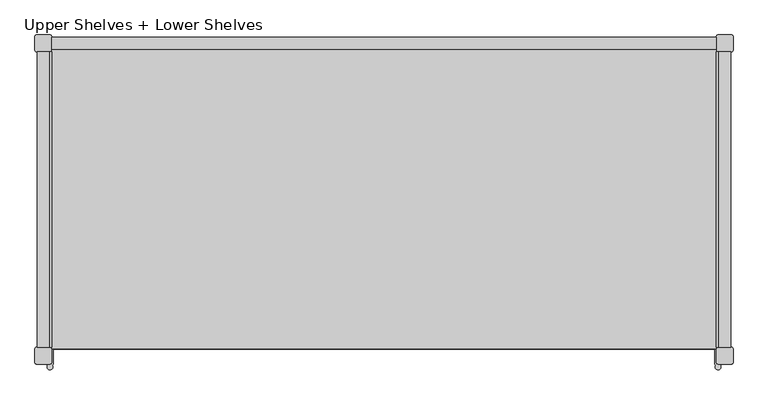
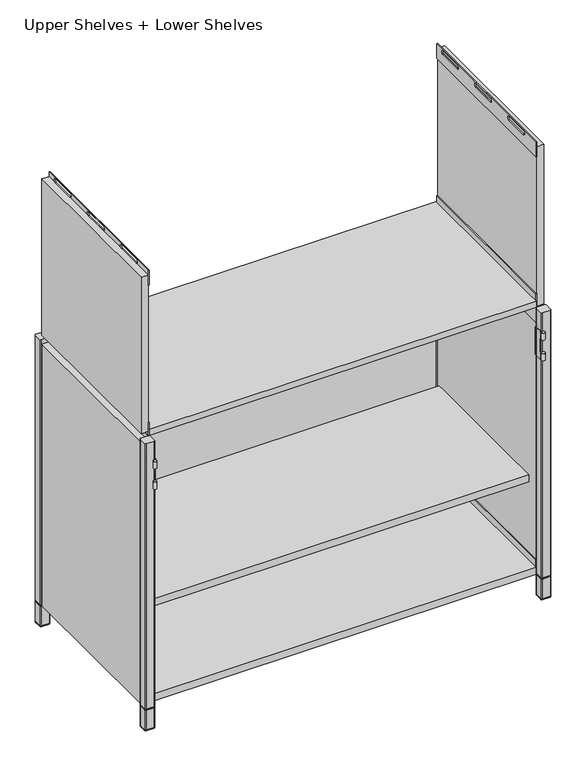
"""IFC4 building model written with IfcOpenShell, lengths in millimetres: furniture geometry, SmithSystem_AM_Storage_Education_Constellate_Stacking_LowMidCluster : Upper Shelves + Lower Shelves."""

from ifc_helpers import new_model, si_unit, point, frame, frame_2d, origin, origin_with_axes, place, context, project, spatial, polyline, circle_curve, trimmed, segment, composite_curve, outline, extrude, source, transform, mapped, element, save
from ifc_brep_helpers import plane_surface, cylinder_surface, revolved_surface, advanced_brep


def upper_shelves_lower_shelves_562fbb97(model_context):
    return source(origin(), model_context, "Body", "SolidModel", [
        extrude(outline(polyline([(-223.52, 753.11), (-223.52, 793.75), (226.06, 793.75), (226.06, 753.11), (-223.52, 753.11)]), holes=[composite_curve([segment(trimmed(circle_curve(frame_2d((-17.78, 786.13)), 5.08), [point((-17.78, 791.21))], [point((-17.78, 781.05))], True, "CARTESIAN"), True, "CONTINUOUS"), segment(polyline([(-17.78, 781.05), (48.26, 781.05)]), True, "CONTINUOUS"), segment(trimmed(circle_curve(frame_2d((48.26, 786.13)), 5.08), [point((48.26, 781.05))], [point((48.26, 791.21))], True, "CARTESIAN"), True, "CONTINUOUS"), segment(polyline([(48.26, 791.21), (-17.78, 791.21)]), True, "CONTINUOUS")], self_intersect=False), composite_curve([segment(trimmed(circle_curve(frame_2d((132.08, 786.13)), 5.08), [point((132.08, 791.21))], [point((132.08, 781.05))], True, "CARTESIAN"), True, "CONTINUOUS"), segment(polyline([(132.08, 781.05), (198.12, 781.05)]), True, "CONTINUOUS"), segment(trimmed(circle_curve(frame_2d((198.12, 786.13)), 5.08), [point((198.12, 781.05))], [point((198.12, 791.21))], True, "CARTESIAN"), True, "CONTINUOUS"), segment(polyline([(198.12, 791.21), (132.08, 791.21)]), True, "CONTINUOUS")], self_intersect=False), composite_curve([segment(trimmed(circle_curve(frame_2d((-167.64, 786.13)), 5.08), [point((-167.64, 791.21))], [point((-167.64, 781.05))], True, "CARTESIAN"), True, "CONTINUOUS"), segment(polyline([(-167.64, 781.05), (-101.6, 781.05)]), True, "CONTINUOUS"), segment(trimmed(circle_curve(frame_2d((-101.6, 786.13)), 5.08), [point((-101.6, 781.05))], [point((-101.6, 791.21))], True, "CARTESIAN"), True, "CONTINUOUS"), segment(polyline([(-101.6, 791.21), (-167.64, 791.21)]), True, "CONTINUOUS")], self_intersect=False)]), frame((-508.0, 0.0, 0.0), z_axis=(1.0, 0.0, 0.0), x_axis=(0.0, 1.0, 0.0)), (0.0, 0.0, 1.0), 2.54),
        extrude(outline(polyline([(-223.52, 1210.31), (-223.52, 1250.95), (226.06, 1250.95), (226.06, 1210.31), (-223.52, 1210.31)]), holes=[composite_curve([segment(trimmed(circle_curve(frame_2d((-17.78, 1243.33)), 5.08), [point((-17.78, 1248.41))], [point((-17.78, 1238.25))], True, "CARTESIAN"), True, "CONTINUOUS"), segment(polyline([(-17.78, 1238.25), (48.26, 1238.25)]), True, "CONTINUOUS"), segment(trimmed(circle_curve(frame_2d((48.26, 1243.33)), 5.08), [point((48.26, 1238.25))], [point((48.26, 1248.41))], True, "CARTESIAN"), True, "CONTINUOUS"), segment(polyline([(48.26, 1248.41), (-17.78, 1248.41)]), True, "CONTINUOUS")], self_intersect=False), composite_curve([segment(trimmed(circle_curve(frame_2d((132.08, 1243.33)), 5.08), [point((132.08, 1248.41))], [point((132.08, 1238.25))], True, "CARTESIAN"), True, "CONTINUOUS"), segment(polyline([(132.08, 1238.25), (198.12, 1238.25)]), True, "CONTINUOUS"), segment(trimmed(circle_curve(frame_2d((198.12, 1243.33)), 5.08), [point((198.12, 1238.25))], [point((198.12, 1248.41))], True, "CARTESIAN"), True, "CONTINUOUS"), segment(polyline([(198.12, 1248.41), (132.08, 1248.41)]), True, "CONTINUOUS")], self_intersect=False), composite_curve([segment(trimmed(circle_curve(frame_2d((-167.64, 1243.33)), 5.08), [point((-167.64, 1248.41))], [point((-167.64, 1238.25))], True, "CARTESIAN"), True, "CONTINUOUS"), segment(polyline([(-167.64, 1238.25), (-101.6, 1238.25)]), True, "CONTINUOUS"), segment(trimmed(circle_curve(frame_2d((-101.6, 1243.33)), 5.08), [point((-101.6, 1238.25))], [point((-101.6, 1248.41))], True, "CARTESIAN"), True, "CONTINUOUS"), segment(polyline([(-101.6, 1248.41), (-167.64, 1248.41)]), True, "CONTINUOUS")], self_intersect=False)]), frame((-508.0, 0.0, 0.0), z_axis=(1.0, 0.0, 0.0), x_axis=(0.0, 1.0, 0.0)), (0.0, 0.0, 1.0), 2.54),
        extrude(outline(polyline([(-223.52, 793.75), (226.06, 793.75), (226.06, 753.11), (-223.52, 753.11), (-223.52, 793.75)]), holes=[composite_curve([segment(trimmed(circle_curve(frame_2d((132.08, 786.13)), 5.08), [point((132.08, 791.21))], [point((132.08, 781.05))], True, "CARTESIAN"), True, "CONTINUOUS"), segment(polyline([(132.08, 781.05), (198.12, 781.05)]), True, "CONTINUOUS"), segment(trimmed(circle_curve(frame_2d((198.12, 786.13)), 5.08), [point((198.12, 781.05))], [point((198.12, 791.21))], True, "CARTESIAN"), True, "CONTINUOUS"), segment(polyline([(198.12, 791.21), (132.08, 791.21)]), True, "CONTINUOUS")], self_intersect=False), composite_curve([segment(trimmed(circle_curve(frame_2d((-17.78, 786.13)), 5.08), [point((-17.78, 791.21))], [point((-17.78, 781.05))], True, "CARTESIAN"), True, "CONTINUOUS"), segment(polyline([(-17.78, 781.05), (48.26, 781.05)]), True, "CONTINUOUS"), segment(trimmed(circle_curve(frame_2d((48.26, 786.13)), 5.08), [point((48.26, 781.05))], [point((48.26, 791.21))], True, "CARTESIAN"), True, "CONTINUOUS"), segment(polyline([(48.26, 791.21), (-17.78, 791.21)]), True, "CONTINUOUS")], self_intersect=False), composite_curve([segment(trimmed(circle_curve(frame_2d((-167.64, 786.13)), 5.08), [point((-167.64, 791.21))], [point((-167.64, 781.05))], True, "CARTESIAN"), True, "CONTINUOUS"), segment(polyline([(-167.64, 781.05), (-101.6, 781.05)]), True, "CONTINUOUS"), segment(trimmed(circle_curve(frame_2d((-101.6, 786.13)), 5.08), [point((-101.6, 781.05))], [point((-101.6, 791.21))], True, "CARTESIAN"), True, "CONTINUOUS"), segment(polyline([(-101.6, 791.21), (-167.64, 791.21)]), True, "CONTINUOUS")], self_intersect=False)]), frame((505.46, 0.0, 0.0), z_axis=(1.0, 0.0, 0.0), x_axis=(0.0, 1.0, 0.0)), (0.0, 0.0, 1.0), 2.54),
        extrude(outline(polyline([(-223.52, 1250.95), (226.06, 1250.95), (226.06, 1210.31), (-223.52, 1210.31), (-223.52, 1250.95)]), holes=[composite_curve([segment(trimmed(circle_curve(frame_2d((132.08, 1243.33)), 5.08), [point((132.08, 1248.41))], [point((132.08, 1238.25))], True, "CARTESIAN"), True, "CONTINUOUS"), segment(polyline([(132.08, 1238.25), (198.12, 1238.25)]), True, "CONTINUOUS"), segment(trimmed(circle_curve(frame_2d((198.12, 1243.33)), 5.08), [point((198.12, 1238.25))], [point((198.12, 1248.41))], True, "CARTESIAN"), True, "CONTINUOUS"), segment(polyline([(198.12, 1248.41), (132.08, 1248.41)]), True, "CONTINUOUS")], self_intersect=False), composite_curve([segment(trimmed(circle_curve(frame_2d((-17.78, 1243.33)), 5.08), [point((-17.78, 1248.41))], [point((-17.78, 1238.25))], True, "CARTESIAN"), True, "CONTINUOUS"), segment(polyline([(-17.78, 1238.25), (48.26, 1238.25)]), True, "CONTINUOUS"), segment(trimmed(circle_curve(frame_2d((48.26, 1243.33)), 5.08), [point((48.26, 1238.25))], [point((48.26, 1248.41))], True, "CARTESIAN"), True, "CONTINUOUS"), segment(polyline([(48.26, 1248.41), (-17.78, 1248.41)]), True, "CONTINUOUS")], self_intersect=False), composite_curve([segment(trimmed(circle_curve(frame_2d((-167.64, 1243.33)), 5.08), [point((-167.64, 1248.41))], [point((-167.64, 1238.25))], True, "CARTESIAN"), True, "CONTINUOUS"), segment(polyline([(-167.64, 1238.25), (-101.6, 1238.25)]), True, "CONTINUOUS"), segment(trimmed(circle_curve(frame_2d((-101.6, 1243.33)), 5.08), [point((-101.6, 1238.25))], [point((-101.6, 1248.41))], True, "CARTESIAN"), True, "CONTINUOUS"), segment(polyline([(-101.6, 1248.41), (-167.64, 1248.41)]), True, "CONTINUOUS")], self_intersect=False)]), frame((505.46, 0.0, 0.0), z_axis=(1.0, 0.0, 0.0), x_axis=(0.0, 1.0, 0.0)), (0.0, 0.0, 1.0), 2.54),
        extrude(outline(polyline([(508.0, 218.44), (508.0, -187.96), (-508.0, -187.96), (-508.0, 218.44), (508.0, 218.44)])), frame((0.0, 0.0, 289.1409), z_axis=(0.0, 0.0, 1.0), x_axis=(1.0, 0.0, 0.0)), (0.0, 0.0, 1.0), 19.05),
        extrude(outline(polyline([(505.46, 228.6), (-505.46, 228.6), (-505.46, 247.65), (505.46, 247.65), (505.46, 228.6)])), frame((0.0, 0.0, 57.15), z_axis=(0.0, 0.0, 1.0), x_axis=(1.0, 0.0, 0.0)), (0.0, 0.0, 1.0), 736.6),
        extrude(outline(polyline([(508.0, -223.52), (505.46, -223.52), (505.46, 226.06), (508.0, 226.06), (508.0, -223.52)])), frame((0.0, 0.0, 57.15), z_axis=(0.0, 0.0, 1.0), x_axis=(1.0, 0.0, 0.0)), (0.0, 0.0, 1.0), 36.83),
        extrude(outline(polyline([(-505.46, -223.52), (-508.0, -223.52), (-508.0, 226.06), (-505.46, 226.06), (-505.46, -223.52)])), frame((0.0, 0.0, 57.15), z_axis=(0.0, 0.0, 1.0), x_axis=(1.0, 0.0, 0.0)), (0.0, 0.0, 1.0), 36.83),
        extrude(outline(polyline([(508.0, -223.52), (505.46, -223.52), (505.46, 226.06), (508.0, 226.06), (508.0, -223.52)])), frame((0.0, 0.0, 793.75), z_axis=(0.0, 0.0, 1.0), x_axis=(1.0, 0.0, 0.0)), (0.0, 0.0, 1.0), 36.83),
        extrude(outline(polyline([(-505.46, -223.52), (-508.0, -223.52), (-508.0, 226.06), (-505.46, 226.06), (-505.46, -223.52)])), frame((0.0, 0.0, 793.75), z_axis=(0.0, 0.0, 1.0), x_axis=(1.0, 0.0, 0.0)), (0.0, 0.0, 1.0), 36.83),
        extrude(outline(polyline([(-508.0, -223.52), (-527.05, -223.52), (-527.05, 226.06), (-508.0, 226.06), (-508.0, -223.52)])), frame((0.0, 0.0, 57.15), z_axis=(0.0, 0.0, 1.0), x_axis=(1.0, 0.0, 0.0)), (0.0, 0.0, 1.0), 723.9),
        extrude(outline(polyline([(527.05, -223.52), (508.0, -223.52), (508.0, 226.06), (527.05, 226.06), (527.05, -223.52)])), frame((0.0, 0.0, 57.15), z_axis=(0.0, 0.0, 1.0), x_axis=(1.0, 0.0, 0.0)), (0.0, 0.0, 1.0), 723.9),
        extrude(outline(polyline([(-508.0, -223.52), (-527.05, -223.52), (-527.05, 226.06), (-508.0, 226.06), (-508.0, -223.52)])), frame((0.0, 0.0, 806.45), z_axis=(0.0, 0.0, 1.0), x_axis=(1.0, 0.0, 0.0)), (0.0, 0.0, 1.0), 431.8),
        extrude(outline(polyline([(527.05, -223.52), (508.0, -223.52), (508.0, 226.06), (527.05, 226.06), (527.05, -223.52)])), frame((0.0, 0.0, 796.29), z_axis=(0.0, 0.0, 1.0), x_axis=(1.0, 0.0, 0.0)), (0.0, 0.0, 1.0), 441.96),
        extrude(outline(polyline([(505.46, 228.6), (505.46, -226.06), (-505.46, -226.06), (-505.46, 228.6), (505.46, 228.6)])), frame((0.0, 0.0, 57.15), z_axis=(0.0, 0.0, 1.0), x_axis=(1.0, 0.0, 0.0)), (0.0, 0.0, 1.0), 19.05),
        extrude(outline(polyline([(505.46, 228.6), (505.46, -226.06), (-505.46, -226.06), (-505.46, 228.6), (505.46, 228.6)])), frame((0.0, 0.0, 796.29), z_axis=(0.0, 0.0, 1.0), x_axis=(1.0, 0.0, 0.0)), (0.0, 0.0, 1.0), 16.51),
        extrude(outline(composite_curve([segment(polyline([(-528.32, -223.52), (-508.0, -223.52)]), True, "CONTINUOUS"), segment(trimmed(circle_curve(frame_2d((-508.0, -226.06)), 2.54), [point((-508.0, -223.52))], [point((-505.46, -226.06))], False, "CARTESIAN"), True, "CONTINUOUS"), segment(polyline([(-505.46, -226.06), (-505.46, -246.38)]), True, "CONTINUOUS"), segment(trimmed(circle_curve(frame_2d((-508.0, -246.38)), 2.54), [point((-505.46, -246.38))], [point((-508.0, -248.92))], False, "CARTESIAN"), True, "CONTINUOUS"), segment(polyline([(-508.0, -248.92), (-528.32, -248.92)]), True, "CONTINUOUS"), segment(trimmed(circle_curve(frame_2d((-528.32, -246.38)), 2.54), [point((-528.32, -248.92))], [point((-530.86, -246.38))], False, "CARTESIAN"), True, "CONTINUOUS"), segment(polyline([(-530.86, -246.38), (-530.86, -226.06)]), True, "CONTINUOUS"), segment(trimmed(circle_curve(frame_2d((-528.32, -226.06)), 2.54), [point((-530.86, -226.06))], [point((-528.32, -223.52))], False, "CARTESIAN"), True, "CONTINUOUS")], self_intersect=False)), frame((0.0, 0.0, 57.15), z_axis=(0.0, 0.0, 1.0), x_axis=(1.0, 0.0, 0.0)), (0.0, 0.0, 1.0), 2.54),
        extrude(outline(composite_curve([segment(polyline([(530.86, 248.92), (530.86, 228.6)]), True, "CONTINUOUS"), segment(trimmed(circle_curve(frame_2d((528.32, 228.6)), 2.54), [point((530.86, 228.6))], [point((528.32, 226.06))], False, "CARTESIAN"), True, "CONTINUOUS"), segment(polyline([(528.32, 226.06), (508.0, 226.06)]), True, "CONTINUOUS"), segment(trimmed(circle_curve(frame_2d((508.0, 228.6)), 2.54), [point((508.0, 226.06))], [point((505.46, 228.6))], False, "CARTESIAN"), True, "CONTINUOUS"), segment(polyline([(505.46, 228.6), (505.46, 248.92)]), True, "CONTINUOUS"), segment(trimmed(circle_curve(frame_2d((508.0, 248.92)), 2.54), [point((505.46, 248.92))], [point((508.0, 251.46))], False, "CARTESIAN"), True, "CONTINUOUS"), segment(polyline([(508.0, 251.46), (528.32, 251.46)]), True, "CONTINUOUS"), segment(trimmed(circle_curve(frame_2d((528.32, 248.92)), 2.54), [point((528.32, 251.46))], [point((530.86, 248.92))], False, "CARTESIAN"), True, "CONTINUOUS")], self_intersect=False)), frame((0.0, 0.0, 57.15), z_axis=(0.0, 0.0, 1.0), x_axis=(1.0, 0.0, 0.0)), (0.0, 0.0, 1.0), 2.54),
        extrude(outline(composite_curve([segment(trimmed(circle_curve(frame_2d((528.32, -226.06)), 2.54), [point((528.32, -223.52))], [point((530.86, -226.06))], False, "CARTESIAN"), True, "CONTINUOUS"), segment(polyline([(530.86, -226.06), (530.86, -246.38)]), True, "CONTINUOUS"), segment(trimmed(circle_curve(frame_2d((528.32, -246.38)), 2.54), [point((530.86, -246.38))], [point((528.32, -248.92))], False, "CARTESIAN"), True, "CONTINUOUS"), segment(polyline([(528.32, -248.92), (508.0, -248.92)]), True, "CONTINUOUS"), segment(trimmed(circle_curve(frame_2d((508.0, -246.38)), 2.54), [point((508.0, -248.92))], [point((505.46, -246.38))], False, "CARTESIAN"), True, "CONTINUOUS"), segment(polyline([(505.46, -246.38), (505.46, -226.06)]), True, "CONTINUOUS"), segment(trimmed(circle_curve(frame_2d((508.0, -226.06)), 2.54), [point((505.46, -226.06))], [point((508.0, -223.52))], False, "CARTESIAN"), True, "CONTINUOUS"), segment(polyline([(508.0, -223.52), (528.32, -223.52)]), True, "CONTINUOUS")], self_intersect=False)), frame((0.0, 0.0, 57.15), z_axis=(0.0, 0.0, 1.0), x_axis=(1.0, 0.0, 0.0)), (0.0, 0.0, 1.0), 2.54),
        extrude(outline(composite_curve([segment(trimmed(circle_curve(frame_2d((-528.32, 248.92)), 2.54), [point((-530.86, 248.92))], [point((-528.32, 251.46))], False, "CARTESIAN"), True, "CONTINUOUS"), segment(polyline([(-528.32, 251.46), (-508.0, 251.46)]), True, "CONTINUOUS"), segment(trimmed(circle_curve(frame_2d((-508.0, 248.92)), 2.54), [point((-508.0, 251.46))], [point((-505.46, 248.92))], False, "CARTESIAN"), True, "CONTINUOUS"), segment(polyline([(-505.46, 248.92), (-505.46, 228.6)]), True, "CONTINUOUS"), segment(trimmed(circle_curve(frame_2d((-508.0, 228.6)), 2.54), [point((-505.46, 228.6))], [point((-508.0, 226.06))], False, "CARTESIAN"), True, "CONTINUOUS"), segment(polyline([(-508.0, 226.06), (-528.32, 226.06)]), True, "CONTINUOUS"), segment(trimmed(circle_curve(frame_2d((-528.32, 228.6)), 2.54), [point((-528.32, 226.06))], [point((-530.86, 228.6))], False, "CARTESIAN"), True, "CONTINUOUS"), segment(polyline([(-530.86, 228.6), (-530.86, 248.92)]), True, "CONTINUOUS")], self_intersect=False)), frame((0.0, 0.0, 57.15), z_axis=(0.0, 0.0, 1.0), x_axis=(1.0, 0.0, 0.0)), (0.0, 0.0, 1.0), 2.54),
        extrude(outline(composite_curve([segment(polyline([(-528.32, -223.52), (-508.0, -223.52)]), True, "CONTINUOUS"), segment(trimmed(circle_curve(frame_2d((-508.0, -226.06)), 2.54), [point((-508.0, -223.52))], [point((-505.46, -226.06))], False, "CARTESIAN"), True, "CONTINUOUS"), segment(polyline([(-505.46, -226.06), (-505.46, -246.38)]), True, "CONTINUOUS"), segment(trimmed(circle_curve(frame_2d((-508.0, -246.38)), 2.54), [point((-505.46, -246.38))], [point((-508.0, -248.92))], False, "CARTESIAN"), True, "CONTINUOUS"), segment(polyline([(-508.0, -248.92), (-528.32, -248.92)]), True, "CONTINUOUS"), segment(trimmed(circle_curve(frame_2d((-528.32, -246.38)), 2.54), [point((-528.32, -248.92))], [point((-530.86, -246.38))], False, "CARTESIAN"), True, "CONTINUOUS"), segment(polyline([(-530.86, -246.38), (-530.86, -226.06)]), True, "CONTINUOUS"), segment(trimmed(circle_curve(frame_2d((-528.32, -226.06)), 2.54), [point((-530.86, -226.06))], [point((-528.32, -223.52))], False, "CARTESIAN"), True, "CONTINUOUS")], self_intersect=False)), frame((0.0, 0.0, 59.69), z_axis=(0.0, 0.0, 1.0), x_axis=(1.0, 0.0, 0.0)), (0.0, 0.0, 1.0), 734.06),
        extrude(outline(composite_curve([segment(polyline([(530.86, 248.92), (530.86, 228.6)]), True, "CONTINUOUS"), segment(trimmed(circle_curve(frame_2d((528.32, 228.6)), 2.54), [point((530.86, 228.6))], [point((528.32, 226.06))], False, "CARTESIAN"), True, "CONTINUOUS"), segment(polyline([(528.32, 226.06), (508.0, 226.06)]), True, "CONTINUOUS"), segment(trimmed(circle_curve(frame_2d((508.0, 228.6)), 2.54), [point((508.0, 226.06))], [point((505.46, 228.6))], False, "CARTESIAN"), True, "CONTINUOUS"), segment(polyline([(505.46, 228.6), (505.46, 248.92)]), True, "CONTINUOUS"), segment(trimmed(circle_curve(frame_2d((508.0, 248.92)), 2.54), [point((505.46, 248.92))], [point((508.0, 251.46))], False, "CARTESIAN"), True, "CONTINUOUS"), segment(polyline([(508.0, 251.46), (528.32, 251.46)]), True, "CONTINUOUS"), segment(trimmed(circle_curve(frame_2d((528.32, 248.92)), 2.54), [point((528.32, 251.46))], [point((530.86, 248.92))], False, "CARTESIAN"), True, "CONTINUOUS")], self_intersect=False)), frame((0.0, 0.0, 59.69), z_axis=(0.0, 0.0, 1.0), x_axis=(1.0, 0.0, 0.0)), (0.0, 0.0, 1.0), 734.06),
        extrude(outline(composite_curve([segment(trimmed(circle_curve(frame_2d((528.32, -226.06)), 2.54), [point((528.32, -223.52))], [point((530.86, -226.06))], False, "CARTESIAN"), True, "CONTINUOUS"), segment(polyline([(530.86, -226.06), (530.86, -246.38)]), True, "CONTINUOUS"), segment(trimmed(circle_curve(frame_2d((528.32, -246.38)), 2.54), [point((530.86, -246.38))], [point((528.32, -248.92))], False, "CARTESIAN"), True, "CONTINUOUS"), segment(polyline([(528.32, -248.92), (508.0, -248.92)]), True, "CONTINUOUS"), segment(trimmed(circle_curve(frame_2d((508.0, -246.38)), 2.54), [point((508.0, -248.92))], [point((505.46, -246.38))], False, "CARTESIAN"), True, "CONTINUOUS"), segment(polyline([(505.46, -246.38), (505.46, -226.06)]), True, "CONTINUOUS"), segment(trimmed(circle_curve(frame_2d((508.0, -226.06)), 2.54), [point((505.46, -226.06))], [point((508.0, -223.52))], False, "CARTESIAN"), True, "CONTINUOUS"), segment(polyline([(508.0, -223.52), (528.32, -223.52)]), True, "CONTINUOUS")], self_intersect=False)), frame((0.0, 0.0, 59.69), z_axis=(0.0, 0.0, 1.0), x_axis=(1.0, 0.0, 0.0)), (0.0, 0.0, 1.0), 734.06),
        extrude(outline(composite_curve([segment(trimmed(circle_curve(frame_2d((-528.32, 248.92)), 2.54), [point((-530.86, 248.92))], [point((-528.32, 251.46))], False, "CARTESIAN"), True, "CONTINUOUS"), segment(polyline([(-528.32, 251.46), (-508.0, 251.46)]), True, "CONTINUOUS"), segment(trimmed(circle_curve(frame_2d((-508.0, 248.92)), 2.54), [point((-508.0, 251.46))], [point((-505.46, 248.92))], False, "CARTESIAN"), True, "CONTINUOUS"), segment(polyline([(-505.46, 248.92), (-505.46, 228.6)]), True, "CONTINUOUS"), segment(trimmed(circle_curve(frame_2d((-508.0, 228.6)), 2.54), [point((-505.46, 228.6))], [point((-508.0, 226.06))], False, "CARTESIAN"), True, "CONTINUOUS"), segment(polyline([(-508.0, 226.06), (-528.32, 226.06)]), True, "CONTINUOUS"), segment(trimmed(circle_curve(frame_2d((-528.32, 228.6)), 2.54), [point((-528.32, 226.06))], [point((-530.86, 228.6))], False, "CARTESIAN"), True, "CONTINUOUS"), segment(polyline([(-530.86, 228.6), (-530.86, 248.92)]), True, "CONTINUOUS")], self_intersect=False)), frame((0.0, 0.0, 59.69), z_axis=(0.0, 0.0, 1.0), x_axis=(1.0, 0.0, 0.0)), (0.0, 0.0, 1.0), 734.06),
        extrude(outline(composite_curve([segment(polyline([(-528.32, -223.52), (-508.0, -223.52)]), True, "CONTINUOUS"), segment(trimmed(circle_curve(frame_2d((-508.0, -226.06)), 2.54), [point((-508.0, -223.52))], [point((-505.46, -226.06))], False, "CARTESIAN"), True, "CONTINUOUS"), segment(polyline([(-505.46, -226.06), (-505.46, -246.38)]), True, "CONTINUOUS"), segment(trimmed(circle_curve(frame_2d((-508.0, -246.38)), 2.54), [point((-505.46, -246.38))], [point((-508.0, -248.92))], False, "CARTESIAN"), True, "CONTINUOUS"), segment(polyline([(-508.0, -248.92), (-528.32, -248.92)]), True, "CONTINUOUS"), segment(trimmed(circle_curve(frame_2d((-528.32, -246.38)), 2.54), [point((-528.32, -248.92))], [point((-530.86, -246.38))], False, "CARTESIAN"), True, "CONTINUOUS"), segment(polyline([(-530.86, -246.38), (-530.86, -226.06)]), True, "CONTINUOUS"), segment(trimmed(circle_curve(frame_2d((-528.32, -226.06)), 2.54), [point((-530.86, -226.06))], [point((-528.32, -223.52))], False, "CARTESIAN"), True, "CONTINUOUS")], self_intersect=False)), frame((0.0, 0.0, 2.54), z_axis=(0.0, 0.0, 1.0), x_axis=(1.0, 0.0, 0.0)), (0.0, 0.0, 1.0), 54.61),
        extrude(outline(composite_curve([segment(polyline([(530.86, 248.92), (530.86, 228.6)]), True, "CONTINUOUS"), segment(trimmed(circle_curve(frame_2d((528.32, 228.6)), 2.54), [point((530.86, 228.6))], [point((528.32, 226.06))], False, "CARTESIAN"), True, "CONTINUOUS"), segment(polyline([(528.32, 226.06), (508.0, 226.06)]), True, "CONTINUOUS"), segment(trimmed(circle_curve(frame_2d((508.0, 228.6)), 2.54), [point((508.0, 226.06))], [point((505.46, 228.6))], False, "CARTESIAN"), True, "CONTINUOUS"), segment(polyline([(505.46, 228.6), (505.46, 248.92)]), True, "CONTINUOUS"), segment(trimmed(circle_curve(frame_2d((508.0, 248.92)), 2.54), [point((505.46, 248.92))], [point((508.0, 251.46))], False, "CARTESIAN"), True, "CONTINUOUS"), segment(polyline([(508.0, 251.46), (528.32, 251.46)]), True, "CONTINUOUS"), segment(trimmed(circle_curve(frame_2d((528.32, 248.92)), 2.54), [point((528.32, 251.46))], [point((530.86, 248.92))], False, "CARTESIAN"), True, "CONTINUOUS")], self_intersect=False)), frame((0.0, 0.0, 2.54), z_axis=(0.0, 0.0, 1.0), x_axis=(1.0, 0.0, 0.0)), (0.0, 0.0, 1.0), 54.61),
        extrude(outline(composite_curve([segment(trimmed(circle_curve(frame_2d((528.32, -226.06)), 2.54), [point((528.32, -223.52))], [point((530.86, -226.06))], False, "CARTESIAN"), True, "CONTINUOUS"), segment(polyline([(530.86, -226.06), (530.86, -246.38)]), True, "CONTINUOUS"), segment(trimmed(circle_curve(frame_2d((528.32, -246.38)), 2.54), [point((530.86, -246.38))], [point((528.32, -248.92))], False, "CARTESIAN"), True, "CONTINUOUS"), segment(polyline([(528.32, -248.92), (508.0, -248.92)]), True, "CONTINUOUS"), segment(trimmed(circle_curve(frame_2d((508.0, -246.38)), 2.54), [point((508.0, -248.92))], [point((505.46, -246.38))], False, "CARTESIAN"), True, "CONTINUOUS"), segment(polyline([(505.46, -246.38), (505.46, -226.06)]), True, "CONTINUOUS"), segment(trimmed(circle_curve(frame_2d((508.0, -226.06)), 2.54), [point((505.46, -226.06))], [point((508.0, -223.52))], False, "CARTESIAN"), True, "CONTINUOUS"), segment(polyline([(508.0, -223.52), (528.32, -223.52)]), True, "CONTINUOUS")], self_intersect=False)), frame((0.0, 0.0, 2.54), z_axis=(0.0, 0.0, 1.0), x_axis=(1.0, 0.0, 0.0)), (0.0, 0.0, 1.0), 54.61),
        extrude(outline(composite_curve([segment(trimmed(circle_curve(frame_2d((-528.32, 248.92)), 2.54), [point((-530.86, 248.92))], [point((-528.32, 251.46))], False, "CARTESIAN"), True, "CONTINUOUS"), segment(polyline([(-528.32, 251.46), (-508.0, 251.46)]), True, "CONTINUOUS"), segment(trimmed(circle_curve(frame_2d((-508.0, 248.92)), 2.54), [point((-508.0, 251.46))], [point((-505.46, 248.92))], False, "CARTESIAN"), True, "CONTINUOUS"), segment(polyline([(-505.46, 248.92), (-505.46, 228.6)]), True, "CONTINUOUS"), segment(trimmed(circle_curve(frame_2d((-508.0, 228.6)), 2.54), [point((-505.46, 228.6))], [point((-508.0, 226.06))], False, "CARTESIAN"), True, "CONTINUOUS"), segment(polyline([(-508.0, 226.06), (-528.32, 226.06)]), True, "CONTINUOUS"), segment(trimmed(circle_curve(frame_2d((-528.32, 228.6)), 2.54), [point((-528.32, 226.06))], [point((-530.86, 228.6))], False, "CARTESIAN"), True, "CONTINUOUS"), segment(polyline([(-530.86, 228.6), (-530.86, 248.92)]), True, "CONTINUOUS")], self_intersect=False)), frame((0.0, 0.0, 2.54), z_axis=(0.0, 0.0, 1.0), x_axis=(1.0, 0.0, 0.0)), (0.0, 0.0, 1.0), 54.61),
        extrude(outline(composite_curve([segment(trimmed(circle_curve(frame_2d((-508.0, -226.06)), 2.54), [point((-508.0, -223.52))], [point((-505.46, -226.06))], False, "CARTESIAN"), True, "CONTINUOUS"), segment(polyline([(-505.46, -226.06), (-505.46, -246.38)]), True, "CONTINUOUS"), segment(trimmed(circle_curve(frame_2d((-508.0, -246.38)), 2.54), [point((-505.46, -246.38))], [point((-508.0, -248.92))], False, "CARTESIAN"), True, "CONTINUOUS"), segment(polyline([(-508.0, -248.92), (-528.32, -248.92)]), True, "CONTINUOUS"), segment(trimmed(circle_curve(frame_2d((-528.32, -246.38)), 2.54), [point((-528.32, -248.92))], [point((-530.86, -246.38))], False, "CARTESIAN"), True, "CONTINUOUS"), segment(polyline([(-530.86, -246.38), (-530.86, -226.06)]), True, "CONTINUOUS"), segment(trimmed(circle_curve(frame_2d((-528.32, -226.06)), 2.54), [point((-530.86, -226.06))], [point((-528.32, -223.52))], False, "CARTESIAN"), True, "CONTINUOUS"), segment(polyline([(-528.32, -223.52), (-508.0, -223.52)]), True, "CONTINUOUS")], self_intersect=False)), origin_with_axes(), (0.0, 0.0, 1.0), 2.54),
        extrude(outline(composite_curve([segment(polyline([(508.0, -223.52), (528.32, -223.52)]), True, "CONTINUOUS"), segment(trimmed(circle_curve(frame_2d((528.32, -226.06)), 2.54), [point((528.32, -223.52))], [point((530.86, -226.06))], False, "CARTESIAN"), True, "CONTINUOUS"), segment(polyline([(530.86, -226.06), (530.86, -246.38)]), True, "CONTINUOUS"), segment(trimmed(circle_curve(frame_2d((528.32, -246.38)), 2.54), [point((530.86, -246.38))], [point((528.32, -248.92))], False, "CARTESIAN"), True, "CONTINUOUS"), segment(polyline([(528.32, -248.92), (508.0, -248.92)]), True, "CONTINUOUS"), segment(trimmed(circle_curve(frame_2d((508.0, -246.38)), 2.54), [point((508.0, -248.92))], [point((505.46, -246.38))], False, "CARTESIAN"), True, "CONTINUOUS"), segment(polyline([(505.46, -246.38), (505.46, -226.06)]), True, "CONTINUOUS"), segment(trimmed(circle_curve(frame_2d((508.0, -226.06)), 2.54), [point((505.46, -226.06))], [point((508.0, -223.52))], False, "CARTESIAN"), True, "CONTINUOUS")], self_intersect=False)), origin_with_axes(), (0.0, 0.0, 1.0), 2.54),
        extrude(outline(composite_curve([segment(trimmed(circle_curve(frame_2d((-508.0, 248.92)), 2.54), [point((-508.0, 251.46))], [point((-505.46, 248.92))], False, "CARTESIAN"), True, "CONTINUOUS"), segment(polyline([(-505.46, 248.92), (-505.46, 228.6)]), True, "CONTINUOUS"), segment(trimmed(circle_curve(frame_2d((-508.0, 228.6)), 2.54), [point((-505.46, 228.6))], [point((-508.0, 226.06))], False, "CARTESIAN"), True, "CONTINUOUS"), segment(polyline([(-508.0, 226.06), (-528.32, 226.06)]), True, "CONTINUOUS"), segment(trimmed(circle_curve(frame_2d((-528.32, 228.6)), 2.54), [point((-528.32, 226.06))], [point((-530.86, 228.6))], False, "CARTESIAN"), True, "CONTINUOUS"), segment(polyline([(-530.86, 228.6), (-530.86, 248.92)]), True, "CONTINUOUS"), segment(trimmed(circle_curve(frame_2d((-528.32, 248.92)), 2.54), [point((-530.86, 248.92))], [point((-528.32, 251.46))], False, "CARTESIAN"), True, "CONTINUOUS"), segment(polyline([(-528.32, 251.46), (-508.0, 251.46)]), True, "CONTINUOUS")], self_intersect=False)), origin_with_axes(), (0.0, 0.0, 1.0), 2.54),
        extrude(outline(composite_curve([segment(polyline([(508.0, 251.46), (528.32, 251.46)]), True, "CONTINUOUS"), segment(trimmed(circle_curve(frame_2d((528.32, 248.92)), 2.54), [point((528.32, 251.46))], [point((530.86, 248.92))], False, "CARTESIAN"), True, "CONTINUOUS"), segment(polyline([(530.86, 248.92), (530.86, 228.6)]), True, "CONTINUOUS"), segment(trimmed(circle_curve(frame_2d((528.32, 228.6)), 2.54), [point((530.86, 228.6))], [point((528.32, 226.06))], False, "CARTESIAN"), True, "CONTINUOUS"), segment(polyline([(528.32, 226.06), (508.0, 226.06)]), True, "CONTINUOUS"), segment(trimmed(circle_curve(frame_2d((508.0, 228.6)), 2.54), [point((508.0, 226.06))], [point((505.46, 228.6))], False, "CARTESIAN"), True, "CONTINUOUS"), segment(polyline([(505.46, 228.6), (505.46, 248.92)]), True, "CONTINUOUS"), segment(trimmed(circle_curve(frame_2d((508.0, 248.92)), 2.54), [point((505.46, 248.92))], [point((508.0, 251.46))], False, "CARTESIAN"), True, "CONTINUOUS")], self_intersect=False)), origin_with_axes(), (0.0, 0.0, 1.0), 2.54),
        advanced_brep(
        [(-505.46, -226.06, 666.75), (-502.92, -226.06, 666.75), (-502.92, -247.65, 666.75), (-504.444, -250.698, 666.75), (-508.0, -248.92, 666.75), (-506.73, -248.92, 666.75), (-505.46, -247.65, 666.75), (-502.92, -226.06, 742.95), (-505.46, -226.06, 742.95), (-505.46, -247.65, 742.95), (-506.73, -248.92, 742.95), (-508.0, -248.92, 742.95), (-504.444, -250.698, 742.95), (-502.92, -247.65, 742.95), (-502.92, -247.65, 723.9), (-502.92, -245.11, 723.9), (-502.92, -245.11, 685.8), (-502.92, -247.65, 685.8), (-505.46, -247.65, 685.8), (-505.46, -245.11, 685.8), (-505.46, -245.11, 723.9), (-505.46, -247.65, 723.9), (-504.444, -250.698, 723.9), (-508.0, -248.92, 723.9), (-506.73, -248.92, 723.9), (-504.444, -250.698, 685.8), (-506.73, -248.92, 685.8), (-508.0, -248.92, 685.8)],
        [
            (0, 1),
            (1, 2),
            (2, 3, circle_curve(frame((-506.73, -247.65, 666.75), z_axis=(0.0, 0.0, -1.0), x_axis=(0.0, 1.0, 0.0)), 3.81)),
            (3, 4, circle_curve(frame((-508.0, -253.365, 666.75), z_axis=(0.0, 0.0, -1.0), x_axis=(0.0, 1.0, 0.0)), 4.445)),
            (4, 5),
            (5, 6, circle_curve(frame((-506.73, -247.65, 666.75), z_axis=(0.0, 0.0, 1.0), x_axis=(0.0, 1.0, 0.0)), 1.27)),
            (6, 0),
            (7, 8),
            (8, 9),
            (9, 10, circle_curve(frame((-506.73, -247.65, 742.95), z_axis=(0.0, 0.0, -1.0), x_axis=(0.0, 1.0, 0.0)), 1.27)),
            (10, 11),
            (11, 12, circle_curve(frame((-508.0, -253.365, 742.95), z_axis=(0.0, 0.0, 1.0), x_axis=(0.0, 1.0, 0.0)), 4.445)),
            (12, 13, circle_curve(frame((-506.73, -247.65, 742.95), z_axis=(0.0, 0.0, 1.0), x_axis=(0.0, 1.0, 0.0)), 3.81)),
            (13, 7),
            (1, 7),
            (13, 14),
            (14, 15),
            (15, 16),
            (16, 17),
            (17, 2),
            (0, 8),
            (6, 18),
            (18, 19),
            (19, 20),
            (20, 21),
            (21, 9),
            (15, 20),
            (19, 16),
            (22, 23, circle_curve(frame((-508.0, -253.365, 723.9), z_axis=(0.0, 0.0, -1.0), x_axis=(0.0, 1.0, 0.0)), 4.445)),
            (23, 24),
            (24, 21, circle_curve(frame((-506.73, -247.65, 723.9), z_axis=(0.0, 0.0, 1.0), x_axis=(0.0, 1.0, 0.0)), 1.27)),
            (14, 22, circle_curve(frame((-506.73, -247.65, 723.9), z_axis=(0.0, 0.0, -1.0), x_axis=(0.0, 1.0, 0.0)), 3.81)),
            (12, 22),
            (24, 10),
            (23, 11),
            (25, 17, circle_curve(frame((-506.73, -247.65, 685.8), z_axis=(0.0, 0.0, 1.0), x_axis=(0.0, 1.0, 0.0)), 3.81)),
            (18, 26, circle_curve(frame((-506.73, -247.65, 685.8), z_axis=(0.0, 0.0, -1.0), x_axis=(0.0, 1.0, 0.0)), 1.27)),
            (26, 27),
            (27, 25, circle_curve(frame((-508.0, -253.365, 685.8), z_axis=(0.0, 0.0, 1.0), x_axis=(0.0, 1.0, 0.0)), 4.445)),
            (25, 3),
            (5, 26),
            (4, 27),
        ],
        [
            plane_surface(frame((-541.02, -245.11, 666.75), z_axis=(0.0, 0.0, -1.0), x_axis=(-1.0, 0.0, 0.0))),
            plane_surface(frame((-541.02, -245.11, 742.95), z_axis=(0.0, 0.0, 1.0), x_axis=(1.0, 0.0, 0.0))),
            plane_surface(frame((-502.92, -226.06, 666.75), z_axis=(1.0, 0.0, 0.0), x_axis=(0.0, 0.0, 1.0))),
            plane_surface(frame((-505.46, -226.06, 666.75), z_axis=(0.0, 1.0, 0.0), x_axis=(0.0, 0.0, 1.0))),
            plane_surface(frame((-505.46, -245.11, 666.75), z_axis=(-1.0, 0.0, 0.0), x_axis=(0.0, 0.0, 1.0))),
            plane_surface(frame((-502.92, -245.11, 666.75), z_axis=(0.0, -1.0, 0.0), x_axis=(0.0, 0.0, 1.0))),
            plane_surface(frame((-508.0, -248.92, 723.9), z_axis=(0.0, 0.0, -1.0), x_axis=(1.0, 0.0, 0.0))),
            cylinder_surface(frame((-506.73, -247.65, 742.95), z_axis=(0.0, 0.0, -1.0), x_axis=(0.0, 1.0, 0.0)), 3.81),
            revolved_surface(polyline([(-506.73, -246.38, 742.95), (-506.73, -246.38, 723.9)]), (-506.73, -247.65, 742.95), (0.0, 0.0, 1.0)),
            plane_surface(frame((-508.0, -248.92, 723.9), z_axis=(0.0, 1.0, 0.0), x_axis=(0.0, 0.0, 1.0))),
            cylinder_surface(frame((-508.0, -253.365, 742.95), z_axis=(0.0, 0.0, -1.0), x_axis=(0.0, 1.0, 0.0)), 4.445),
            plane_surface(frame((-508.0, -248.92, 685.8), z_axis=(0.0, 0.0, 1.0), x_axis=(-1.0, 0.0, 0.0))),
            cylinder_surface(frame((-506.73, -247.65, 685.8), z_axis=(0.0, 0.0, -1.0), x_axis=(0.0, 1.0, 0.0)), 3.81),
            revolved_surface(polyline([(-506.73, -246.38, 685.8), (-506.73, -246.38, 666.75)]), (-506.73, -247.65, 685.8), (0.0, 0.0, 1.0)),
            plane_surface(frame((-508.0, -248.92, 666.75), z_axis=(0.0, 1.0, 0.0), x_axis=(0.0, 0.0, 1.0))),
            cylinder_surface(frame((-508.0, -253.365, 685.8), z_axis=(0.0, 0.0, -1.0), x_axis=(0.0, 1.0, 0.0)), 4.445),
        ],
        [
            (0, [[1, 2, 3, 4, 5, 6, 7]]),
            (1, [[8, 9, 10, 11, 12, 13, 14]]),
            (2, [[-2, 15, -14, 16, 17, 18, 19, 20]]),
            (3, [[-1, 21, -8, -15]]),
            (4, [[-21, -7, 22, 23, 24, 25, 26, -9]]),
            (5, [[27, -24, 28, -18]]),
            (6, [[29, 30, 31, -25, -27, -17, 32]]),
            (7, [[-32, -16, -13, 33]]),
            (8, [[-31, 34, -10, -26]]),
            (9, [[-30, 35, -11, -34]]),
            (10, [[-29, -33, -12, -35]]),
            (11, [[36, -19, -28, -23, 37, 38, 39]]),
            (12, [[-36, 40, -3, -20]]),
            (13, [[-37, -22, -6, 41]]),
            (14, [[-38, -41, -5, 42]]),
            (15, [[-39, -42, -4, -40]]),
        ],
    ),
        advanced_brep(
        [(502.92, -226.06, 666.75), (505.46, -226.06, 666.75), (505.46, -247.65, 666.75), (506.73, -248.92, 666.75), (508.0, -248.92, 666.75), (504.444, -250.698, 666.75), (502.92, -247.65, 666.75), (505.46, -226.06, 742.95), (502.92, -226.06, 742.95), (502.92, -247.65, 742.95), (504.444, -250.698, 742.95), (508.0, -248.92, 742.95), (506.73, -248.92, 742.95), (505.46, -247.65, 742.95), (505.46, -245.11, 723.9), (502.92, -245.11, 723.9), (502.92, -245.11, 685.8), (505.46, -245.11, 685.8), (505.46, -247.65, 723.9), (505.46, -247.65, 685.8), (502.92, -247.65, 685.8), (502.92, -247.65, 723.9), (504.444, -250.698, 723.9), (506.73, -248.92, 723.9), (508.0, -248.92, 723.9), (504.444, -250.698, 685.8), (508.0, -248.92, 685.8), (506.73, -248.92, 685.8)],
        [
            (0, 1),
            (1, 2),
            (2, 3, circle_curve(frame((506.73, -247.65, 666.75), z_axis=(0.0, 0.0, 1.0), x_axis=(0.0, 1.0, 0.0)), 1.27)),
            (3, 4),
            (4, 5, circle_curve(frame((508.0, -253.365, 666.75), z_axis=(0.0, 0.0, -1.0), x_axis=(0.0, 1.0, 0.0)), 4.445)),
            (5, 6, circle_curve(frame((506.73, -247.65, 666.75), z_axis=(0.0, 0.0, -1.0), x_axis=(0.0, 1.0, 0.0)), 3.81)),
            (6, 0),
            (7, 8),
            (8, 9),
            (9, 10, circle_curve(frame((506.73, -247.65, 742.95), z_axis=(0.0, 0.0, 1.0), x_axis=(0.0, 1.0, 0.0)), 3.81)),
            (10, 11, circle_curve(frame((508.0, -253.365, 742.95), z_axis=(0.0, 0.0, 1.0), x_axis=(0.0, 1.0, 0.0)), 4.445)),
            (11, 12),
            (12, 13, circle_curve(frame((506.73, -247.65, 742.95), z_axis=(0.0, 0.0, -1.0), x_axis=(0.0, 1.0, 0.0)), 1.27)),
            (13, 7),
            (14, 15),
            (15, 16),
            (16, 17),
            (17, 14),
            (1, 7),
            (13, 18),
            (18, 14),
            (17, 19),
            (19, 2),
            (0, 8),
            (6, 20),
            (20, 16),
            (15, 21),
            (21, 9),
            (22, 21, circle_curve(frame((506.73, -247.65, 723.9), z_axis=(0.0, 0.0, -1.0), x_axis=(0.0, 1.0, 0.0)), 3.81)),
            (18, 23, circle_curve(frame((506.73, -247.65, 723.9), z_axis=(0.0, 0.0, 1.0), x_axis=(0.0, 1.0, 0.0)), 1.27)),
            (23, 24),
            (24, 22, circle_curve(frame((508.0, -253.365, 723.9), z_axis=(0.0, 0.0, -1.0), x_axis=(0.0, 1.0, 0.0)), 4.445)),
            (24, 11),
            (10, 22),
            (23, 12),
            (25, 26, circle_curve(frame((508.0, -253.365, 685.8), z_axis=(0.0, 0.0, 1.0), x_axis=(0.0, 1.0, 0.0)), 4.445)),
            (26, 27),
            (27, 19, circle_curve(frame((506.73, -247.65, 685.8), z_axis=(0.0, 0.0, -1.0), x_axis=(0.0, 1.0, 0.0)), 1.27)),
            (20, 25, circle_curve(frame((506.73, -247.65, 685.8), z_axis=(0.0, 0.0, 1.0), x_axis=(0.0, 1.0, 0.0)), 3.81)),
            (25, 5),
            (4, 26),
            (3, 27),
        ],
        [
            plane_surface(frame((-541.02, -245.11, 666.75), z_axis=(0.0, 0.0, -1.0), x_axis=(-1.0, 0.0, 0.0))),
            plane_surface(frame((-541.02, -245.11, 742.95), z_axis=(0.0, 0.0, 1.0), x_axis=(1.0, 0.0, 0.0))),
            plane_surface(frame((505.46, -245.11, 666.75), z_axis=(0.0, -1.0, 0.0), x_axis=(0.0, 0.0, 1.0))),
            plane_surface(frame((505.46, -226.06, 666.75), z_axis=(1.0, 0.0, 0.0), x_axis=(0.0, 0.0, 1.0))),
            plane_surface(frame((502.92, -226.06, 666.75), z_axis=(0.0, 1.0, 0.0), x_axis=(0.0, 0.0, 1.0))),
            plane_surface(frame((502.92, -245.11, 666.75), z_axis=(-1.0, 0.0, 0.0), x_axis=(0.0, 0.0, 1.0))),
            plane_surface(frame((-508.0, -248.92, 723.9), z_axis=(0.0, 0.0, -1.0), x_axis=(1.0, 0.0, 0.0))),
            cylinder_surface(frame((508.0, -253.365, 742.95), z_axis=(0.0, 0.0, -1.0), x_axis=(0.0, 1.0, 0.0)), 4.445),
            plane_surface(frame((506.73, -248.92, 723.9), z_axis=(0.0, 1.0, 0.0), x_axis=(0.0, 0.0, 1.0))),
            revolved_surface(polyline([(506.73, -246.38, 742.95), (506.73, -246.38, 723.9)]), (506.73, -247.65, 742.95), (0.0, 0.0, 1.0)),
            cylinder_surface(frame((506.73, -247.65, 742.95), z_axis=(0.0, 0.0, -1.0), x_axis=(0.0, 1.0, 0.0)), 3.81),
            plane_surface(frame((-508.0, -248.92, 685.8), z_axis=(0.0, 0.0, 1.0), x_axis=(-1.0, 0.0, 0.0))),
            cylinder_surface(frame((508.0, -253.365, 666.75), z_axis=(0.0, 0.0, -1.0), x_axis=(0.0, 1.0, 0.0)), 4.445),
            plane_surface(frame((506.73, -248.92, 666.75), z_axis=(0.0, 1.0, 0.0), x_axis=(0.0, 0.0, 1.0))),
            revolved_surface(polyline([(506.73, -246.38, 685.8), (506.73, -246.38, 666.75)]), (506.73, -247.65, 666.75), (0.0, 0.0, 1.0)),
            cylinder_surface(frame((506.73, -247.65, 666.75), z_axis=(0.0, 0.0, -1.0), x_axis=(0.0, 1.0, 0.0)), 3.81),
        ],
        [
            (0, [[1, 2, 3, 4, 5, 6, 7]]),
            (1, [[8, 9, 10, 11, 12, 13, 14]]),
            (2, [[15, 16, 17, 18]]),
            (3, [[-2, 19, -14, 20, 21, -18, 22, 23]]),
            (4, [[-1, 24, -8, -19]]),
            (5, [[-24, -7, 25, 26, -16, 27, 28, -9]]),
            (6, [[29, -27, -15, -21, 30, 31, 32]]),
            (7, [[-32, 33, -11, 34]]),
            (8, [[-31, 35, -12, -33]]),
            (9, [[-30, -20, -13, -35]]),
            (10, [[-29, -34, -10, -28]]),
            (11, [[36, 37, 38, -22, -17, -26, 39]]),
            (12, [[-36, 40, -5, 41]]),
            (13, [[-37, -41, -4, 42]]),
            (14, [[-38, -42, -3, -23]]),
            (15, [[-39, -25, -6, -40]]),
        ],
    ),
    ])


if __name__ == "__main__":
    model = new_model("IFC4")
    model_context = context("Model", 3, world=origin())
    ifc_project = project(units=[si_unit("LENGTHUNIT", "METRE", prefix="MILLI")], contexts=[model_context])
    site = spatial("IfcSite", under=ifc_project)
    building = spatial("IfcBuilding", under=site)
    placement = place(None, origin())
    upper_shelves_lower_shelves_shape = upper_shelves_lower_shelves_562fbb97(model_context)
    element("IfcFurniture", 1, ObjectType="SmithSystem_AM_Storage_Education_Constellate_Stacking_LowMidCluster : Upper Shelves + Lower Shelves", at=placement, inside=building, context=model_context, shape_type="MappedRepresentation", body=[
        mapped(upper_shelves_lower_shelves_shape, transform((0.0, 0.0, 0.0), x_axis=(1.0, 0.0, 0.0), y_axis=(0.0, 1.0, 0.0), z_axis=(0.0, 0.0, 1.0))),
    ])
    save(model, "model.ifc")
